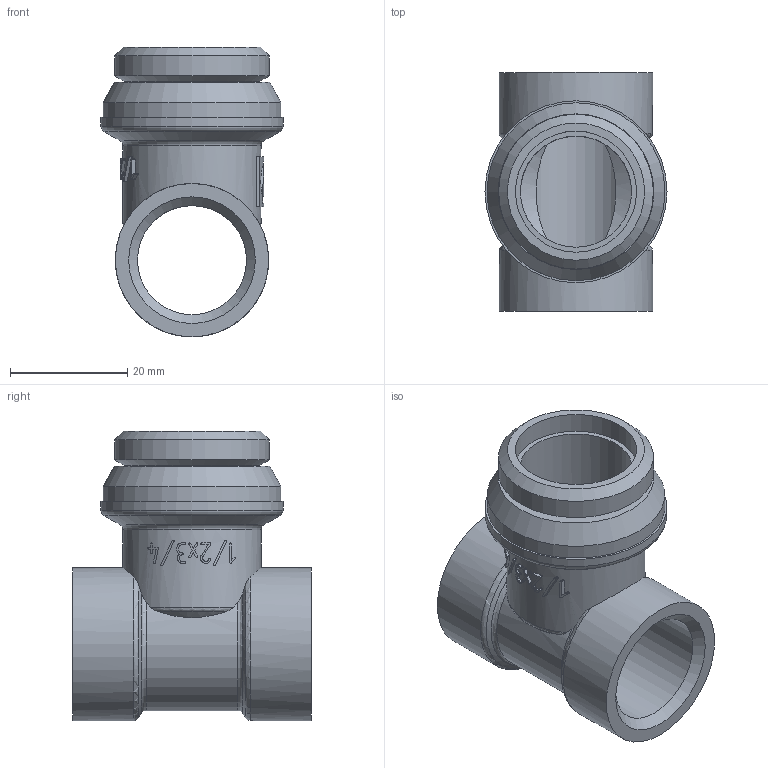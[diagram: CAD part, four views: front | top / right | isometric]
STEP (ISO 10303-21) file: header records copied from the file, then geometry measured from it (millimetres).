
FILE_DESCRIPTION(('STEP AP203'), '1');
FILE_NAME('VTc.530.N.050404', '2024-09-09T06:14:24', ('User'), ('Vesta'), 'C3D Converter', 'C3D Toolkit', '');
FILE_SCHEMA(('CONFIG_CONTROL_DESIGN'));
Length unit declared in the file: millimetre
Products named in the file (1): ВР.302635.121.000 СБ
Bounding box: 31.1 x 40.8 x 49.5 mm (x, y, z)
Volume: 14712.2 mm3; surface area: 10954.2 mm2
Topology: 1 solids, 1 shells, 228 faces, 628 edges, 415 vertices
Faces by surface type: extrusion 108, plane 75, cylinder 23, cone 12, torus 10
Full cylindrical faces by diameter (mm): 18.632 x1, 19 x1, 20.7 x1, 22.6 x1, 22.9 x1, 23.6 x1, 26.2 x2, 26.441 x1, 30.4 x1, 31.1 x1
Entity records: 10361 total; most frequent: CARTESIAN_POINT 5232, ORIENTED_EDGE 1214, DIRECTION 712, EDGE_CURVE 607, VERTEX_POINT 415, B_SPLINE_CURVE_WITH_KNOTS 357, VECTOR 318, EDGE_LOOP 266
